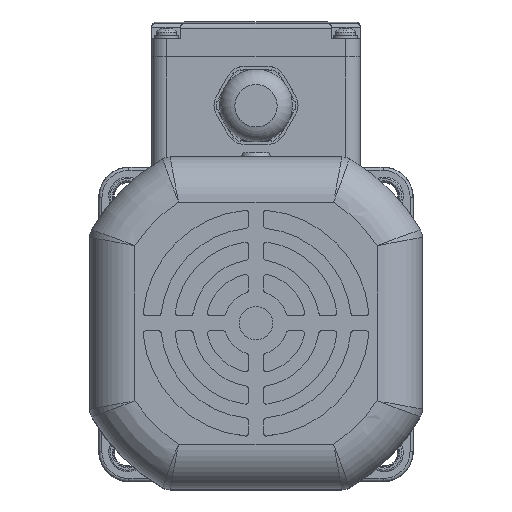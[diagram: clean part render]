
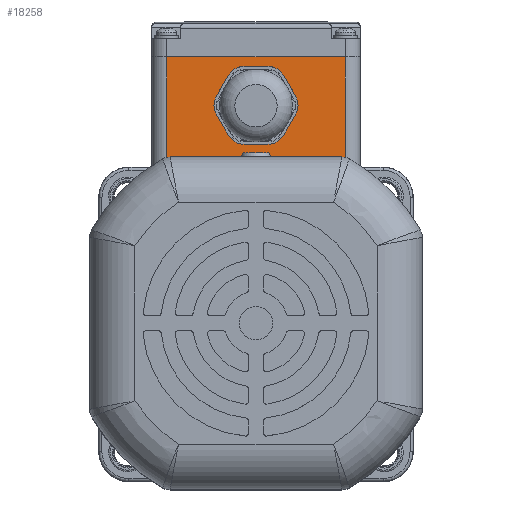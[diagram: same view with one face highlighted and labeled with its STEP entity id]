
A CAD part, top view. The second image highlights one B-rep face of the part: STEP entity #18258.
In plain terms, the highlighted planar face has unit normal (0, -0.009, 1) as drawn and (0, 0, 1) by its records, which use the part's own axes.
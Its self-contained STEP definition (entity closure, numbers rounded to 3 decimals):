
#397 = ORIENTED_EDGE ( 'NONE', *, *, #19369, .T. ) ;
#4077 = DIRECTION ( 'NONE',  ( 1., 0., 0. ) ) ;
#7843 = CARTESIAN_POINT ( 'NONE',  ( -29.5, 36., 37.5 ) ) ;
#8968 = CARTESIAN_POINT ( 'NONE',  ( 29.5, 36., 37.5 ) ) ;
#9783 = CARTESIAN_POINT ( 'NONE',  ( 29.5, 36., 37.5 ) ) ;
#10044 = ORIENTED_EDGE ( 'NONE', *, *, #40764, .T. ) ;
#11489 = FACE_OUTER_BOUND ( 'NONE', #29335, .T. ) ;
#11602 = ORIENTED_EDGE ( 'NONE', *, *, #37976, .T. ) ;
#11628 = DIRECTION ( 'NONE',  ( 1., 0., 0. ) ) ;
#11633 = CARTESIAN_POINT ( 'NONE',  ( -34.5, 36., 37.5 ) ) ;
#13883 = ORIENTED_EDGE ( 'NONE', *, *, #17403, .F. ) ;
#14252 = LINE ( 'NONE', #9783, #27584 ) ;
#17403 = EDGE_CURVE ( 'NONE', #30272, #26152, #34207, .T. ) ;
#18013 = VECTOR ( 'NONE', #30724, 1000. ) ;
#18258 = ADVANCED_FACE ( 'NONE', ( #11489 ), #26599, .T. ) ;
#18541 = VERTEX_POINT ( 'NONE', #29043 ) ;
#19369 = EDGE_CURVE ( 'NONE', #30272, #18541, #27108, .T. ) ;
#22887 = DIRECTION ( 'NONE',  ( 0., 0., 1. ) ) ;
#24355 = VECTOR ( 'NONE', #11628, 1000. ) ;
#24439 = VERTEX_POINT ( 'NONE', #28981 ) ;
#24670 = DIRECTION ( 'NONE',  ( 0., 1., 0. ) ) ;
#25766 = CARTESIAN_POINT ( 'NONE',  ( -34.5, 0., 37.5 ) ) ;
#26152 = VERTEX_POINT ( 'NONE', #8968 ) ;
#26599 = PLANE ( 'NONE',  #29918 ) ;
#27108 = LINE ( 'NONE', #39019, #46317 ) ;
#27584 = VECTOR ( 'NONE', #24670, 1000. ) ;
#28981 = CARTESIAN_POINT ( 'NONE',  ( 29.5, 0., 37.5 ) ) ;
#29043 = CARTESIAN_POINT ( 'NONE',  ( -29.5, 0., 37.5 ) ) ;
#29335 = EDGE_LOOP ( 'NONE', ( #13883, #397, #10044, #11602 ) ) ;
#29918 = AXIS2_PLACEMENT_3D ( 'NONE', #41757, #22887, #4077 ) ;
#30272 = VERTEX_POINT ( 'NONE', #7843 ) ;
#30476 = LINE ( 'NONE', #25766, #24355 ) ;
#30724 = DIRECTION ( 'NONE',  ( 1., 0., 0. ) ) ;
#34207 = LINE ( 'NONE', #11633, #18013 ) ;
#37976 = EDGE_CURVE ( 'NONE', #24439, #26152, #14252, .T. ) ;
#38511 = DIRECTION ( 'NONE',  ( 0., -1., 0. ) ) ;
#39019 = CARTESIAN_POINT ( 'NONE',  ( -29.5, 0., 37.5 ) ) ;
#40764 = EDGE_CURVE ( 'NONE', #18541, #24439, #30476, .T. ) ;
#41757 = CARTESIAN_POINT ( 'NONE',  ( -34.5, 0., 37.5 ) ) ;
#46317 = VECTOR ( 'NONE', #38511, 1000. ) ;
